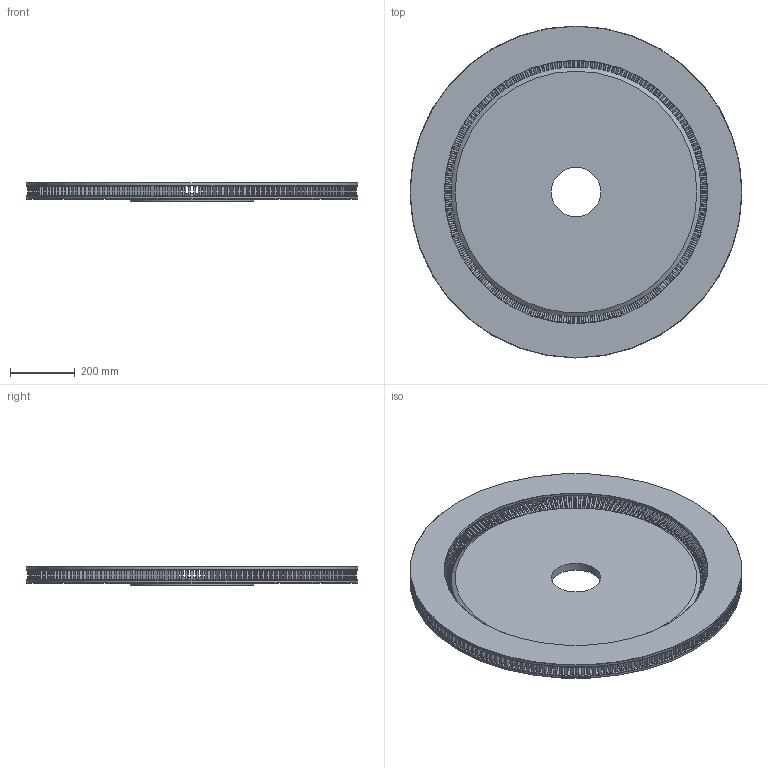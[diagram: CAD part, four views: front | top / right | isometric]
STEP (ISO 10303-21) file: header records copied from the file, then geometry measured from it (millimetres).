
FILE_DESCRIPTION (( 'STEP AP214' ), '1' );
FILE_NAME ('2-4-40.STEP', '2018-05-31T15:44:12', ( '' ), ( '' ), 'SwSTEP 2.0', 'SolidWorks 2017', '' );
FILE_SCHEMA (( 'AUTOMOTIVE_DESIGN' ));
Length unit declared in the file: inch
Products named in the file (1): 2-4-40
Bounding box: 1023.94 x 1023.94 x 57.15 mm (x, y, z)
Volume: 18568381.6 mm3; surface area: 3282027.2 mm2
Topology: 1 solids, 1 shells, 2019 faces, 6765 edges, 4387 vertices
Faces by surface type: cylinder 1097, plane 551, cone 189, torus 182
Full cylindrical faces by diameter (mm): 152.4 x1, 381 x1, 811.212 x1, 1023.937 x2
Entity records: 91744 total; most frequent: CARTESIAN_POINT 36824, ORIENTED_EDGE 13498, DIRECTION 9530, EDGE_CURVE 6749, VERTEX_POINT 4383, AXIS2_PLACEMENT_3D 3673, B_SPLINE_CURVE_WITH_KNOTS 2912, VECTOR 2184
